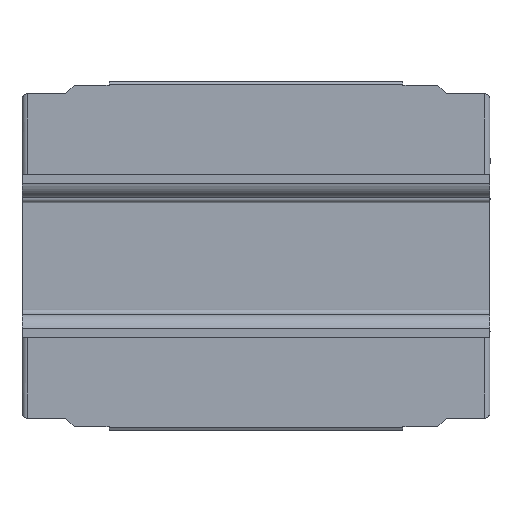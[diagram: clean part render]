
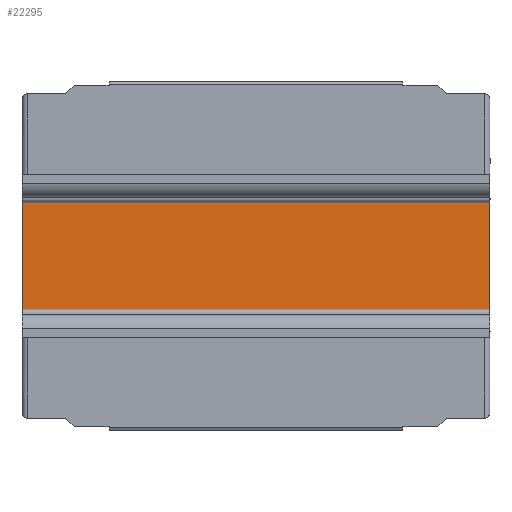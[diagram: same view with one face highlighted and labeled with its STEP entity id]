
A CAD part, front view. The second image highlights one B-rep face of the part: STEP entity #22295.
In plain terms, the highlighted planar face has unit normal (0, -1, 0).
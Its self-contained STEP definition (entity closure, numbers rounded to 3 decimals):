
#2256 = VERTEX_POINT ( 'NONE', #10154 ) ;
#2263 = VERTEX_POINT ( 'NONE', #10142 ) ;
#2265 = EDGE_CURVE ( 'NONE', #2256, #2263, #10141, .T. ) ;
#10138 = DIRECTION ( 'NONE',  ( 1., 0., 0. ) ) ;
#10139 = VECTOR ( 'NONE', #10138, 1000. ) ;
#10140 = CARTESIAN_POINT ( 'NONE',  ( -61.5, 9.5, -6.7 ) ) ;
#10141 = LINE ( 'NONE', #10140, #10139 ) ;
#10142 = CARTESIAN_POINT ( 'NONE',  ( -18.5, 9.5, -6.7 ) ) ;
#10154 = CARTESIAN_POINT ( 'NONE',  ( -61.5, 9.5, -6.7 ) ) ;
#13551 = DIRECTION ( 'NONE',  ( 0., 0., -1. ) ) ;
#13552 = VECTOR ( 'NONE', #13551, 1000. ) ;
#13553 = CARTESIAN_POINT ( 'NONE',  ( -61.5, 9.5, -7.5 ) ) ;
#13554 = LINE ( 'NONE', #13553, #13552 ) ;
#13555 = CARTESIAN_POINT ( 'NONE',  ( -61.5, 9.5, 6.7 ) ) ;
#13556 = DIRECTION ( 'NONE',  ( 1., 0., 0. ) ) ;
#13557 = VECTOR ( 'NONE', #13556, 1000. ) ;
#13558 = CARTESIAN_POINT ( 'NONE',  ( -61.5, 9.5, 6.7 ) ) ;
#13559 = LINE ( 'NONE', #13558, #13557 ) ;
#13560 = CARTESIAN_POINT ( 'NONE',  ( -18.5, 9.5, 6.7 ) ) ;
#13569 = DIRECTION ( 'NONE',  ( 0., 0., 1. ) ) ;
#13570 = VECTOR ( 'NONE', #13569, 1000. ) ;
#13571 = CARTESIAN_POINT ( 'NONE',  ( -18.5, 9.5, -7.5 ) ) ;
#13572 = LINE ( 'NONE', #13571, #13570 ) ;
#13983 = DIRECTION ( 'NONE',  ( 0., 0., 1. ) ) ;
#13984 = DIRECTION ( 'NONE',  ( 0., 1., 0. ) ) ;
#13985 = CARTESIAN_POINT ( 'NONE',  ( -43.75, 9.5, 0. ) ) ;
#13986 = AXIS2_PLACEMENT_3D ( 'NONE', #13985, #13984, #13983 ) ;
#13988 = PLANE ( 'NONE',  #13986 ) ;
#13989 = FACE_OUTER_BOUND ( 'NONE', #22265, .T. ) ;
#22069 = ORIENTED_EDGE ( 'NONE', *, *, #22070, .T. ) ;
#22070 = EDGE_CURVE ( 'NONE', #2263, #22071, #13572, .T. ) ;
#22071 = VERTEX_POINT ( 'NONE', #13560 ) ;
#22072 = ORIENTED_EDGE ( 'NONE', *, *, #22073, .F. ) ;
#22073 = EDGE_CURVE ( 'NONE', #22074, #22071, #13559, .T. ) ;
#22074 = VERTEX_POINT ( 'NONE', #13555 ) ;
#22075 = ORIENTED_EDGE ( 'NONE', *, *, #22076, .T. ) ;
#22076 = EDGE_CURVE ( 'NONE', #22074, #2256, #13554, .T. ) ;
#22077 = ORIENTED_EDGE ( 'NONE', *, *, #2265, .T. ) ;
#22265 = EDGE_LOOP ( 'NONE', ( #22069, #22072, #22075, #22077 ) ) ;
#22295 = ADVANCED_FACE ( 'NONE', ( #13989 ), #13988, .F. ) ;
